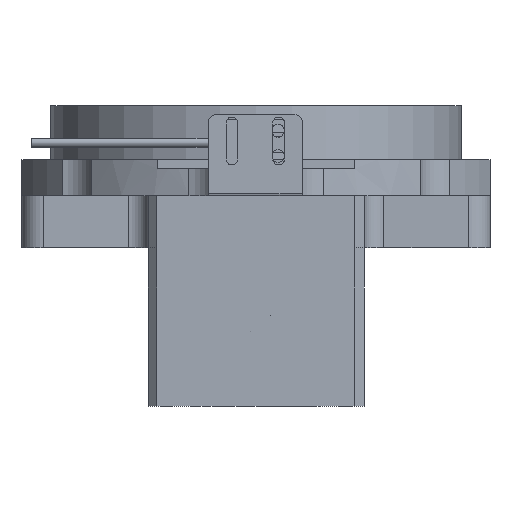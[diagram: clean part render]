
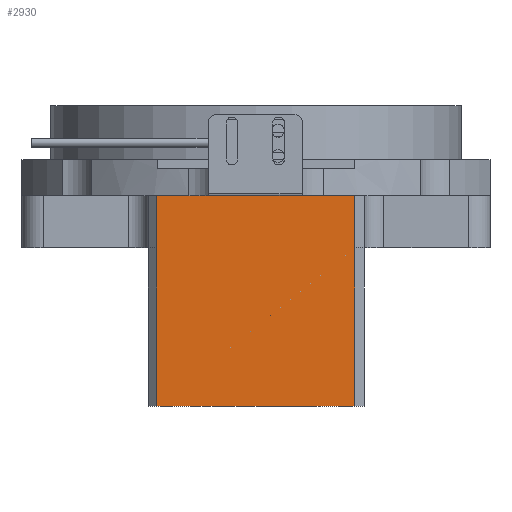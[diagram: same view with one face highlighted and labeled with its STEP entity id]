
A CAD part, front view. The second image highlights one B-rep face of the part: STEP entity #2930.
In plain terms, the highlighted planar face has unit normal (0, -1, 0).
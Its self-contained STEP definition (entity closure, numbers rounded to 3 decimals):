
#206 = VERTEX_POINT ( 'NONE', #5373 ) ;
#366 = ORIENTED_EDGE ( 'NONE', *, *, #5720, .T. ) ;
#416 = VECTOR ( 'NONE', #5620, 1000. ) ;
#470 = VERTEX_POINT ( 'NONE', #7846 ) ;
#656 = LINE ( 'NONE', #2554, #8213 ) ;
#727 = ORIENTED_EDGE ( 'NONE', *, *, #3034, .F. ) ;
#770 = CARTESIAN_POINT ( 'NONE',  ( 18.339, -98.343, 2.25 ) ) ;
#782 = EDGE_CURVE ( 'NONE', #1864, #2908, #7550, .T. ) ;
#905 = DIRECTION ( 'NONE',  ( 0., 1., 0. ) ) ;
#940 = VECTOR ( 'NONE', #4401, 1000. ) ;
#1003 = LINE ( 'NONE', #1087, #4369 ) ;
#1077 = CARTESIAN_POINT ( 'NONE',  ( 18.339, -98.343, 16.75 ) ) ;
#1087 = CARTESIAN_POINT ( 'NONE',  ( -9.161, -98.343, 16.75 ) ) ;
#1719 = CARTESIAN_POINT ( 'NONE',  ( 18.339, -98.343, 2.25 ) ) ;
#1864 = VERTEX_POINT ( 'NONE', #1719 ) ;
#1994 = DIRECTION ( 'NONE',  ( 0., 0., -1. ) ) ;
#2075 = CARTESIAN_POINT ( 'NONE',  ( -9.161, -98.343, 41.75 ) ) ;
#2243 = DIRECTION ( 'NONE',  ( 0., 0., 1. ) ) ;
#2554 = CARTESIAN_POINT ( 'NONE',  ( -36.661, -98.343, 41.75 ) ) ;
#2779 = EDGE_LOOP ( 'NONE', ( #727, #4949, #4147, #6977, #366, #3008 ) ) ;
#2908 = VERTEX_POINT ( 'NONE', #3567 ) ;
#2930 = ADVANCED_FACE ( 'NONE', ( #7987 ), #6822, .F. ) ;
#3008 = ORIENTED_EDGE ( 'NONE', *, *, #3456, .T. ) ;
#3034 = EDGE_CURVE ( 'NONE', #470, #7386, #3744, .T. ) ;
#3456 = EDGE_CURVE ( 'NONE', #7793, #7386, #656, .T. ) ;
#3528 = DIRECTION ( 'NONE',  ( 1., 0., 0. ) ) ;
#3567 = CARTESIAN_POINT ( 'NONE',  ( 18.339, -98.343, 16.75 ) ) ;
#3705 = DIRECTION ( 'NONE',  ( 1., 0., 0. ) ) ;
#3744 = LINE ( 'NONE', #8189, #416 ) ;
#3872 = CARTESIAN_POINT ( 'NONE',  ( -36.661, -98.343, 2.25 ) ) ;
#4147 = ORIENTED_EDGE ( 'NONE', *, *, #782, .T. ) ;
#4196 = VECTOR ( 'NONE', #2243, 1000. ) ;
#4369 = VECTOR ( 'NONE', #3705, 1000. ) ;
#4401 = DIRECTION ( 'NONE',  ( 0., 0., -1. ) ) ;
#4727 = VECTOR ( 'NONE', #6555, 1000. ) ;
#4949 = ORIENTED_EDGE ( 'NONE', *, *, #8274, .T. ) ;
#5373 = CARTESIAN_POINT ( 'NONE',  ( -36.661, -98.343, 16.75 ) ) ;
#5620 = DIRECTION ( 'NONE',  ( -1., 0., 0. ) ) ;
#5720 = EDGE_CURVE ( 'NONE', #206, #7793, #5796, .T. ) ;
#5796 = LINE ( 'NONE', #8414, #940 ) ;
#5967 = EDGE_CURVE ( 'NONE', #206, #2908, #1003, .T. ) ;
#6555 = DIRECTION ( 'NONE',  ( 0., 0., 1. ) ) ;
#6684 = LINE ( 'NONE', #770, #4727 ) ;
#6822 = PLANE ( 'NONE',  #7803 ) ;
#6977 = ORIENTED_EDGE ( 'NONE', *, *, #5967, .F. ) ;
#7386 = VERTEX_POINT ( 'NONE', #7737 ) ;
#7550 = LINE ( 'NONE', #1077, #4196 ) ;
#7737 = CARTESIAN_POINT ( 'NONE',  ( -36.661, -98.343, -41.75 ) ) ;
#7793 = VERTEX_POINT ( 'NONE', #3872 ) ;
#7803 = AXIS2_PLACEMENT_3D ( 'NONE', #2075, #905, #3528 ) ;
#7846 = CARTESIAN_POINT ( 'NONE',  ( 18.339, -98.343, -41.75 ) ) ;
#7987 = FACE_OUTER_BOUND ( 'NONE', #2779, .T. ) ;
#8189 = CARTESIAN_POINT ( 'NONE',  ( 20.839, -98.343, -41.75 ) ) ;
#8213 = VECTOR ( 'NONE', #1994, 1000. ) ;
#8274 = EDGE_CURVE ( 'NONE', #470, #1864, #6684, .T. ) ;
#8414 = CARTESIAN_POINT ( 'NONE',  ( -36.661, -98.343, 41.75 ) ) ;
